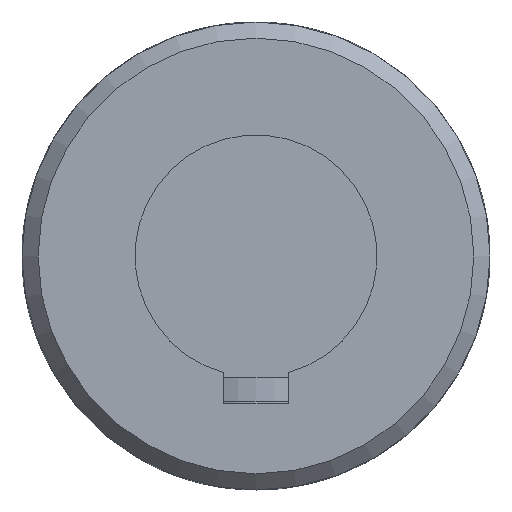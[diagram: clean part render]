
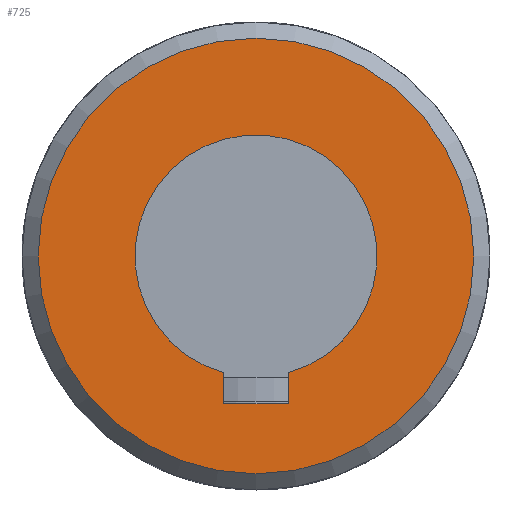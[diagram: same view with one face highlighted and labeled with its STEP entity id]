
A CAD part, front view. The second image highlights one B-rep face of the part: STEP entity #725.
In plain terms, the highlighted planar face has unit normal (0, -1, 0).
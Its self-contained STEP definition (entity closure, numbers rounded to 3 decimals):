
#83=LINE('',#1100,#116);
#87=LINE('',#1123,#120);
#89=LINE('',#1131,#122);
#116=VECTOR('',#902,3.843);
#120=VECTOR('',#914,8.);
#122=VECTOR('',#918,3.843);
#148=PLANE('',#792);
#174=FACE_BOUND('',#263,.T.);
#203=FACE_OUTER_BOUND('',#262,.T.);
#262=EDGE_LOOP('',(#589));
#263=EDGE_LOOP('',(#590,#591,#592,#593));
#303=CIRCLE('',#779,15.);
#309=CIRCLE('',#790,27.);
#345=VERTEX_POINT('',#1097);
#346=VERTEX_POINT('',#1099);
#349=VERTEX_POINT('',#1109);
#351=VERTEX_POINT('',#1121);
#360=VERTEX_POINT('',#1210);
#422=EDGE_CURVE('',#346,#345,#83,.T.);
#426=EDGE_CURVE('',#349,#346,#303,.T.);
#430=EDGE_CURVE('',#345,#351,#87,.T.);
#433=EDGE_CURVE('',#351,#349,#89,.T.);
#443=EDGE_CURVE('',#360,#360,#309,.T.);
#589=ORIENTED_EDGE('',*,*,#443,.F.);
#590=ORIENTED_EDGE('',*,*,#422,.T.);
#591=ORIENTED_EDGE('',*,*,#430,.T.);
#592=ORIENTED_EDGE('',*,*,#433,.T.);
#593=ORIENTED_EDGE('',*,*,#426,.T.);
#725=ADVANCED_FACE('',(#203,#174),#148,.F.);
#779=AXIS2_PLACEMENT_3D('',#1110,#908,#909);
#790=AXIS2_PLACEMENT_3D('',#1211,#935,#936);
#792=AXIS2_PLACEMENT_3D('',#1419,#943,#944);
#902=DIRECTION('',(0.,0.,-1.));
#908=DIRECTION('center_axis',(0.,1.,0.));
#909=DIRECTION('ref_axis',(-0.267,0.,0.964));
#914=DIRECTION('',(-1.,0.,0.));
#918=DIRECTION('',(0.,0.,1.));
#935=DIRECTION('center_axis',(0.,1.,0.));
#936=DIRECTION('ref_axis',(1.,0.,0.));
#943=DIRECTION('center_axis',(0.,1.,0.));
#944=DIRECTION('ref_axis',(0.,0.,1.));
#1097=CARTESIAN_POINT('',(4.,-75.5,-18.3));
#1099=CARTESIAN_POINT('',(4.,-75.5,-14.457));
#1100=CARTESIAN_POINT('',(4.,-75.5,-7.228));
#1109=CARTESIAN_POINT('',(-4.,-75.5,-14.457));
#1110=CARTESIAN_POINT('Origin',(0.,-75.5,0.));
#1121=CARTESIAN_POINT('',(-4.,-75.5,-18.3));
#1123=CARTESIAN_POINT('',(2.,-75.5,-18.3));
#1131=CARTESIAN_POINT('',(-4.,-75.5,-9.15));
#1210=CARTESIAN_POINT('',(-27.,-75.5,0.));
#1211=CARTESIAN_POINT('Origin',(0.,-75.5,0.));
#1419=CARTESIAN_POINT('Origin',(0.,-75.5,0.));
